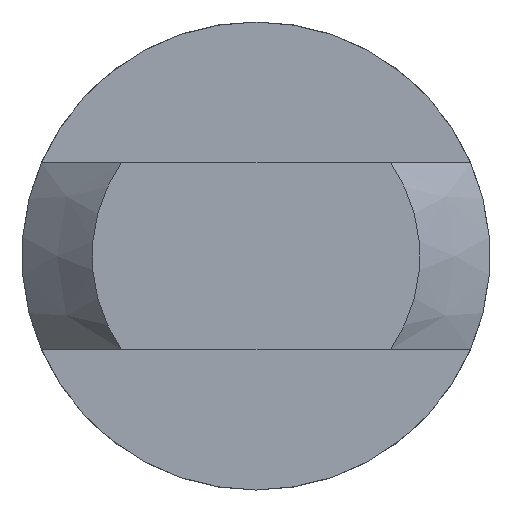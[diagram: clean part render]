
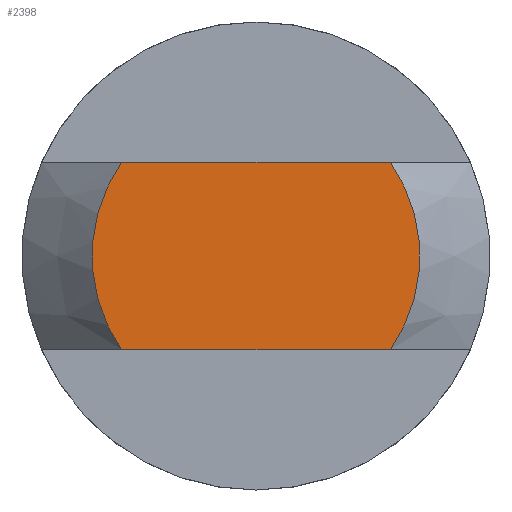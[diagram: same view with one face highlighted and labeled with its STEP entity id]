
A CAD part, left-side view. The second image highlights one B-rep face of the part: STEP entity #2398.
In plain terms, the highlighted planar face has unit normal (-1, 0, 0).
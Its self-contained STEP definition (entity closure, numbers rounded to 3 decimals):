
#32 = VERTEX_POINT ( 'NONE', #1377 ) ;
#39 = CARTESIAN_POINT ( 'NONE',  ( -51.9, 0., -2. ) ) ;
#42 = CARTESIAN_POINT ( 'NONE',  ( -51.9, 0., 0. ) ) ;
#116 = EDGE_LOOP ( 'NONE', ( #183, #932, #277, #1445 ) ) ;
#122 = CARTESIAN_POINT ( 'NONE',  ( -51.9, 0., 2. ) ) ;
#183 = ORIENTED_EDGE ( 'NONE', *, *, #2017, .T. ) ;
#206 = FACE_OUTER_BOUND ( 'NONE', #116, .T. ) ;
#277 = ORIENTED_EDGE ( 'NONE', *, *, #801, .T. ) ;
#324 = LINE ( 'NONE', #122, #2148 ) ;
#609 = CARTESIAN_POINT ( 'NONE',  ( -51.9, 2.872, -2. ) ) ;
#787 = CARTESIAN_POINT ( 'NONE',  ( -51.9, -2.872, 2. ) ) ;
#801 = EDGE_CURVE ( 'NONE', #1552, #2204, #1908, .T. ) ;
#820 = CARTESIAN_POINT ( 'NONE',  ( -51.9, 0., 0. ) ) ;
#932 = ORIENTED_EDGE ( 'NONE', *, *, #2258, .T. ) ;
#947 = DIRECTION ( 'NONE',  ( 0., 0., -1. ) ) ;
#1029 = DIRECTION ( 'NONE',  ( 0., 1., 0. ) ) ;
#1089 = CARTESIAN_POINT ( 'NONE',  ( -51.9, -2.872, -2. ) ) ;
#1275 = AXIS2_PLACEMENT_3D ( 'NONE', #2208, #2072, #2046 ) ;
#1377 = CARTESIAN_POINT ( 'NONE',  ( -51.9, 2.872, 2. ) ) ;
#1378 = DIRECTION ( 'NONE',  ( -1., 0., 0. ) ) ;
#1442 = VECTOR ( 'NONE', #1744, 1000. ) ;
#1445 = ORIENTED_EDGE ( 'NONE', *, *, #1606, .T. ) ;
#1552 = VERTEX_POINT ( 'NONE', #609 ) ;
#1583 = VERTEX_POINT ( 'NONE', #787 ) ;
#1606 = EDGE_CURVE ( 'NONE', #2204, #1583, #2292, .T. ) ;
#1736 = DIRECTION ( 'NONE',  ( 0., 0., -1. ) ) ;
#1744 = DIRECTION ( 'NONE',  ( 0., -1., 0. ) ) ;
#1763 = CIRCLE ( 'NONE', #1275, 3.5 ) ;
#1899 = PLANE ( 'NONE',  #2137 ) ;
#1908 = LINE ( 'NONE', #39, #1442 ) ;
#1910 = DIRECTION ( 'NONE',  ( 1., 0., 0. ) ) ;
#1977 = AXIS2_PLACEMENT_3D ( 'NONE', #820, #1378, #1736 ) ;
#2017 = EDGE_CURVE ( 'NONE', #1583, #32, #324, .T. ) ;
#2046 = DIRECTION ( 'NONE',  ( 0., 0., -1. ) ) ;
#2072 = DIRECTION ( 'NONE',  ( -1., 0., 0. ) ) ;
#2137 = AXIS2_PLACEMENT_3D ( 'NONE', #42, #1910, #947 ) ;
#2148 = VECTOR ( 'NONE', #1029, 1000. ) ;
#2204 = VERTEX_POINT ( 'NONE', #1089 ) ;
#2208 = CARTESIAN_POINT ( 'NONE',  ( -51.9, 0., 0. ) ) ;
#2258 = EDGE_CURVE ( 'NONE', #32, #1552, #1763, .T. ) ;
#2292 = CIRCLE ( 'NONE', #1977, 3.5 ) ;
#2398 = ADVANCED_FACE ( 'NONE', ( #206 ), #1899, .F. ) ;
